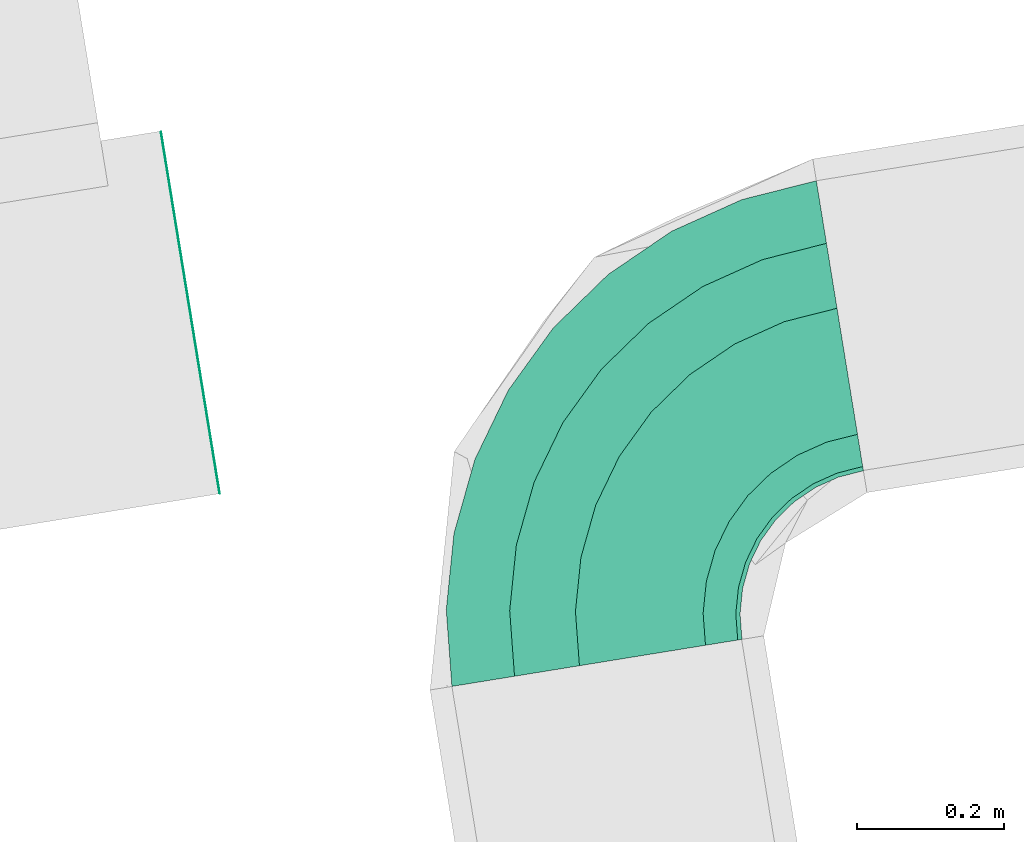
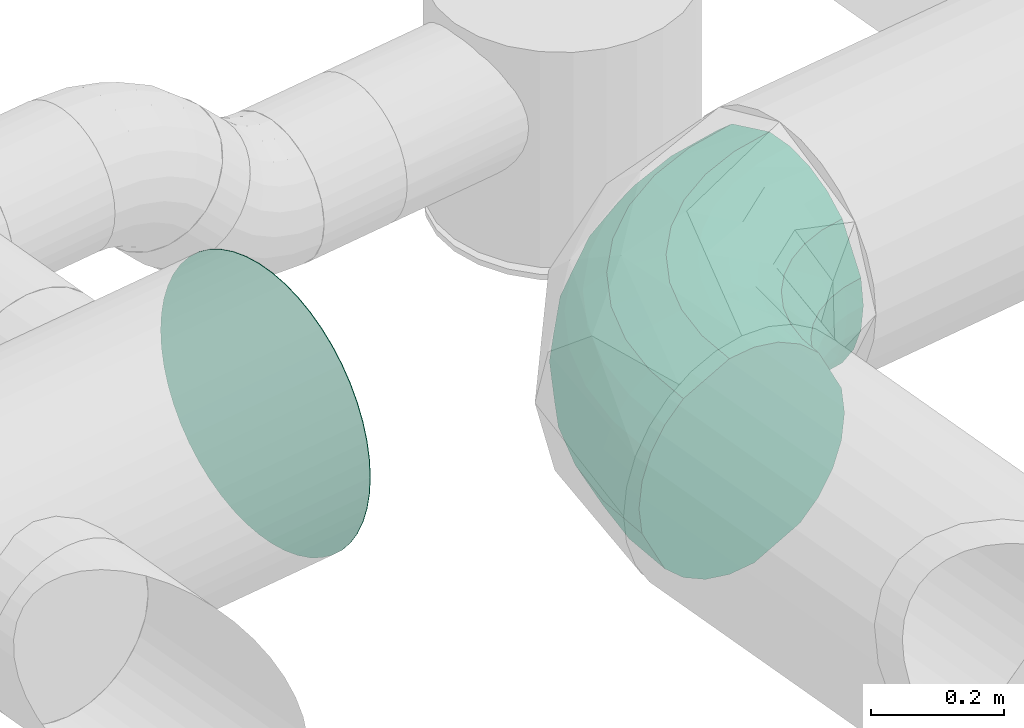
# One storey, part 21 of 39: 2 flow fittings.
"""IFC2X3 building model written with IfcOpenShell, lengths in millimetres."""

import ifcopenshell
import ifcopenshell.guid

model = None  # the IFC model being written
_history = None  # IfcOwnerHistory: only IFC2X3 demands one
_inside = {}  # id of a spatial element -> (the spatial element, [elements in it])
_under = {}  # id of a project, library or spatial element -> (it, [spatial elements below it])
_declared = {}  # id of a project -> (the project, [libraries it declares])
_typed = {}  # id of a type object -> (the type object, [elements of that type])
_made_of = {}  # id of a material, layer set ... -> (it, [elements and type objects made of it])


def new_model(schema):
    """Start an empty IFC model of exactly this schema.

    Asked for "IFC4X3", IfcOpenShell would pick the latest addendum, in which some entities
    have other attributes; the version numbers below select the first issue.
    IFC2X3 requires an IfcOwnerHistory on every rooted entity: one is made here for all.
    """
    global model, _history
    if schema == "IFC4X3":
        model = ifcopenshell.file(schema_version=(4, 3, 0, 0))
    else:
        model = ifcopenshell.file(schema=schema)
    _inside.clear()
    _under.clear()
    _declared.clear()
    _typed.clear()
    _made_of.clear()
    _history = None
    if model.schema == "IFC2X3":
        org = make("IfcOrganization", Name="unknown")
        user = make(
            "IfcPersonAndOrganization",
            ThePerson=make("IfcPerson", FamilyName="unknown"),
            TheOrganization=org,
        )
        app = make(
            "IfcApplication",
            ApplicationDeveloper=org,
            Version="unknown",
            ApplicationFullName="unknown",
            ApplicationIdentifier="unknown",
        )
        _history = make(
            "IfcOwnerHistory",
            OwningUser=user,
            OwningApplication=app,
            ChangeAction="ADDED",
            CreationDate=0,
        )
    return model


def make(cls, **values):
    """One entity of the class cls with the attributes given. An attribute that is None is left unset."""
    return model.create_entity(
        cls, **{name: value for name, value in values.items() if value is not None}
    )


def entity(cls, *values):
    """Any entity or typed value of the class cls, its attributes in the order of the schema. None: left unset."""
    e = model.create_entity(cls)
    for i, value in enumerate(values):
        if value is not None:
            e[i] = value
    return e


def rooted(cls, **values):
    """An entity with a GlobalId (a new one), such as an element, a storey or a relation."""
    return make(cls, GlobalId=ifcopenshell.guid.new(), OwnerHistory=_history, **values)


def si_unit(unit_type, name, prefix=None):
    """IfcSIUnit, for example si_unit("LENGTHUNIT", "METRE", prefix="MILLI")."""
    return make("IfcSIUnit", UnitType=unit_type, Prefix=prefix, Name=name)


def converted_unit(unit_type, name, factor, base, dimensions=None, offset=None):
    """IfcConversionBasedUnit, such as the inch: factor (a typed value) times the base unit."""
    return make(
        "IfcConversionBasedUnit"
        if offset is None
        else "IfcConversionBasedUnitWithOffset",
        ConversionOffset=offset,
        Dimensions=None
        if dimensions is None
        else entity("IfcDimensionalExponents", *dimensions),
        UnitType=unit_type,
        Name=name,
        ConversionFactor=make(
            "IfcMeasureWithUnit", ValueComponent=factor, UnitComponent=base
        ),
    )


def derived_unit(unit_type, elements):
    """IfcDerivedUnit: a product of units, each with its exponent."""
    return make(
        "IfcDerivedUnit",
        Elements=[
            make("IfcDerivedUnitElement", Unit=unit, Exponent=power)
            for unit, power in elements
        ],
        UnitType=unit_type,
    )


def assignment(units):
    """IfcUnitAssignment: the units of a project."""
    return None if units is None else make("IfcUnitAssignment", Units=units)


def point(xyz):
    """IfcCartesianPoint."""
    return None if xyz is None else make("IfcCartesianPoint", Coordinates=xyz)


def direction(xyz):
    """IfcDirection."""
    return None if xyz is None else make("IfcDirection", DirectionRatios=xyz)


def frame(location, z_axis=None, x_axis=None):
    """IfcAxis2Placement3D, a coordinate frame: its origin and axes. An axis left out is left unset."""
    return make(
        "IfcAxis2Placement3D",
        Location=point(location),
        Axis=direction(z_axis),
        RefDirection=direction(x_axis),
    )


def frame_2d(location, x_axis=None):
    """IfcAxis2Placement2D, a coordinate frame in the plane: its origin and x axis."""
    return make(
        "IfcAxis2Placement2D", Location=point(location), RefDirection=direction(x_axis)
    )


def origin():
    """The frame at (0, 0, 0) with its axes left unset."""
    return frame((0.0, 0.0, 0.0))


def origin_with_axes():
    """The frame at (0, 0, 0) with the z axis (0, 0, 1) and the x axis (1, 0, 0) written out."""
    return frame((0.0, 0.0, 0.0), z_axis=(0.0, 0.0, 1.0), x_axis=(1.0, 0.0, 0.0))


def place(relative_to, where):
    """IfcLocalPlacement: puts the frame where relative to a parent placement (None: the world)."""
    return make(
        "IfcLocalPlacement", PlacementRelTo=relative_to, RelativePlacement=where
    )


def context(
    kind, dimensions, precision=None, world=None, true_north=None, identifier=None
):
    """IfcGeometricRepresentationContext, for example the 3D "Model" context."""
    return make(
        "IfcGeometricRepresentationContext",
        ContextIdentifier=identifier,
        ContextType=kind,
        CoordinateSpaceDimension=dimensions,
        Precision=precision,
        WorldCoordinateSystem=world,
        TrueNorth=true_north,
    )


def subcontext(parent, identifier, kind, view, scale=None):
    """IfcGeometricRepresentationSubContext, for example "Body" below "Model"."""
    return make(
        "IfcGeometricRepresentationSubContext",
        ContextIdentifier=identifier,
        ContextType=kind,
        ParentContext=parent,
        TargetScale=scale,
        TargetView=view,
    )


def project(units=None, contexts=None):
    """IfcProject with its units and contexts."""
    return rooted(
        "IfcProject",
        Name="project",
        RepresentationContexts=contexts,
        UnitsInContext=assignment(units),
    )


def spatial(cls, under=None, at=None, **own):
    """A site, building, storey or space (cls), placed at a placement, below another one or the project."""
    s = rooted(cls, ObjectPlacement=at, **own)
    if under is not None:
        _under.setdefault(under.id(), (under, []))[1].append(s)
    return s


def profile(cls, at=None, kind="AREA", **sizes):
    """A parametric profile (cls). Its sizes go by their IFC names, for example OverallWidth=200.0."""
    return make(cls, ProfileType=kind, Position=at, **sizes)


def circle(**sizes):
    """IfcCircleProfileDef."""
    return profile("IfcCircleProfileDef", **sizes)


def extrude(swept, where, along, depth):
    """IfcExtrudedAreaSolid: the profile swept, set in the frame where, extruded along a direction by depth."""
    return make(
        "IfcExtrudedAreaSolid",
        SweptArea=swept,
        Position=where,
        ExtrudedDirection=direction(along),
        Depth=depth,
    )


def faces_of(points, faces, orient=None, outer=None):
    """IfcFace entities. A face is a list of loops; a loop is a list of indices into points, from 0.

    orient and outer hold one flag for each loop. By default every Orientation is true, the
    first loop of a face is its IfcFaceOuterBound and the others are IfcFaceBound.
    """
    made = []
    for i, loops in enumerate(faces):
        bounds = []
        for j, loop in enumerate(loops):
            is_outer = j == 0 if outer is None else outer[i][j]
            bounds.append(
                make(
                    "IfcFaceOuterBound" if is_outer else "IfcFaceBound",
                    Bound=make("IfcPolyLoop", Polygon=[points[k] for k in loop]),
                    Orientation=True if orient is None else orient[i][j],
                )
            )
        made.append(make("IfcFace", Bounds=bounds))
    return made


def faceted_brep(points, faces, orient=None, outer=None, voids=None):
    """IfcFacetedBrep: a solid bounded by flat faces; with voids (closed shells), ...WithVoids."""
    shared = [point(p) for p in points]
    hull = make("IfcClosedShell", CfsFaces=faces_of(shared, faces, orient, outer))
    if voids is None:
        return make("IfcFacetedBrep", Outer=hull)
    return make(
        "IfcFacetedBrepWithVoids",
        Outer=hull,
        Voids=[
            make(cls, CfsFaces=faces_of(shared, fs, o, b)) for cls, fs, o, b in voids
        ],
    )


def shape(context_of_items, identifier, shape_type, items):
    """IfcShapeRepresentation: the items that make up one representation, for example the "Body"."""
    return make(
        "IfcShapeRepresentation",
        ContextOfItems=context_of_items,
        RepresentationIdentifier=identifier,
        RepresentationType=shape_type,
        Items=items,
    )


def source(mapping_origin, context_of_items, identifier, shape_type, items):
    """IfcRepresentationMap: a shape defined once, which mapped items show again and again."""
    return make(
        "IfcRepresentationMap",
        MappingOrigin=mapping_origin,
        MappedRepresentation=shape(context_of_items, identifier, shape_type, items),
    )


def transform(
    local_origin,
    x_axis=None,
    y_axis=None,
    z_axis=None,
    scale=None,
    scale2=None,
    scale3=None,
    uniform=True,
):
    """IfcCartesianTransformationOperator3D, or its non-uniform kind. x_axis, y_axis, z_axis: its Axis1, 2, 3."""
    if uniform:
        return make(
            "IfcCartesianTransformationOperator3D",
            Axis1=direction(x_axis),
            Axis2=direction(y_axis),
            LocalOrigin=point(local_origin),
            Scale=scale,
            Axis3=direction(z_axis),
        )
    return make(
        "IfcCartesianTransformationOperator3DnonUniform",
        Axis1=direction(x_axis),
        Axis2=direction(y_axis),
        LocalOrigin=point(local_origin),
        Scale=scale,
        Axis3=direction(z_axis),
        Scale2=scale2,
        Scale3=scale3,
    )


def mapped(mapping_source, mapping_target):
    """IfcMappedItem: shows the shape of a source again, moved by a transform."""
    return make(
        "IfcMappedItem", MappingSource=mapping_source, MappingTarget=mapping_target
    )


def material(Name=None, Category=None):
    """IfcMaterial."""
    return make("IfcMaterial", Name=Name, Category=Category)


def made_of(thing, what):
    """Note that an element or type object is made of a material, layer set ...; save() writes the relation."""
    if what is not None:
        _made_of.setdefault(what.id(), (what, []))[1].append(thing)
    return thing


def type_object(cls, material=None, **own):
    """A type object (cls), such as IfcWallType, which elements share."""
    return made_of(rooted(cls, **own), material)


def element(
    cls,
    number,
    at=None,
    inside=None,
    cuts=None,
    type_object=None,
    material=None,
    context=None,
    identifier="Body",
    shape_type=None,
    held_by="IfcProductDefinitionShape",
    body=None,
    shapes=None,
    **own,
):
    """One element of the class cls, such as IfcWall. Its Tag is "e" and its number.

    at: its placement. inside: the storey or other place that contains it. cuts: it is an
    opening in that element (IfcRelVoidsElement). A single representation is given by context,
    identifier, shape_type and body (its items); several are given by shapes. held_by: the class
    of the entity that holds the representations. save() writes the other relations.
    """
    e = rooted(cls, Tag="e%d" % number, ObjectPlacement=at, **own)
    if body is not None:
        shapes = [shape(context, identifier, shape_type, body)]
    if shapes is not None:
        e.Representation = make(held_by, Representations=shapes)
    if inside is not None:
        _inside.setdefault(inside.id(), (inside, []))[1].append(e)
    if cuts is not None:
        rooted(
            "IfcRelVoidsElement", RelatingBuildingElement=cuts, RelatedOpeningElement=e
        )
    if type_object is not None:
        _typed.setdefault(type_object.id(), (type_object, []))[1].append(e)
    return made_of(e, material)


def aggregate(whole, parts):
    """IfcRelAggregates: a whole, such as a stair, and the parts it consists of."""
    return rooted("IfcRelAggregates", RelatingObject=whole, RelatedObjects=parts)


def save(model, path):
    """Write the relations noted so far, then the file.

    IfcRelAggregates (storeys below a building ...), IfcRelContainedInSpatialStructure (elements
    in a storey), IfcRelDefinesByType, IfcRelAssociatesMaterial and IfcRelDeclares: one each for
    every whole, place, type object, material and project.
    """
    for whole, parts in _under.values():
        aggregate(whole, parts)
    for where, things in _inside.values():
        rooted(
            "IfcRelContainedInSpatialStructure",
            RelatedElements=things,
            RelatingStructure=where,
        )
    for kind, things in _typed.values():
        rooted("IfcRelDefinesByType", RelatedObjects=things, RelatingType=kind)
    for what, things in _made_of.values():
        rooted("IfcRelAssociatesMaterial", RelatedObjects=things, RelatingMaterial=what)
    for by, libraries in _declared.values():
        rooted("IfcRelDeclares", RelatingContext=by, RelatedDefinitions=libraries)
    model.write(path)


model = new_model("IFC2X3")

# Units and contexts
model_context = context("Model", 3, precision=0.01, world=origin(), true_north=direction((6.12323399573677e-17, 1.0)))
plan_context = context("Plan", 3, precision=1e-05, world=origin_with_axes())
body_context = subcontext(model_context, "Body", "Model", "MODEL_VIEW")
ifc_project = project(units=[converted_unit("PLANEANGLEUNIT", "DEGREE", entity("IfcPositiveLengthMeasure", 0.0174532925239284), si_unit("PLANEANGLEUNIT", "RADIAN"), dimensions=[0, 0, 0, 0, 0, 0, 0]), si_unit("AREAUNIT", "SQUARE_METRE"), si_unit("LENGTHUNIT", "METRE", prefix="MILLI"), si_unit("MASSUNIT", "GRAM", prefix="KILO"), si_unit("POWERUNIT", "WATT"), si_unit("PRESSUREUNIT", "PASCAL", prefix="KILO"), si_unit("FORCEUNIT", "NEWTON", prefix="KILO"), si_unit("ELECTRICVOLTAGEUNIT", "VOLT"), si_unit("ELECTRICCURRENTUNIT", "AMPERE"), si_unit("THERMODYNAMICTEMPERATUREUNIT", "DEGREE_CELSIUS"), si_unit("TIMEUNIT", "SECOND"), si_unit("VOLUMEUNIT", "CUBIC_METRE"), derived_unit("LINEARVELOCITYUNIT", [(si_unit("LENGTHUNIT", "METRE"), 1), (si_unit("TIMEUNIT", "SECOND"), -1)]), derived_unit("VOLUMETRICFLOWRATEUNIT", [(si_unit("VOLUMEUNIT", "CUBIC_METRE"), 1), (si_unit("TIMEUNIT", "SECOND"), -1)]), derived_unit("THERMALTRANSMITTANCEUNIT", [(si_unit("POWERUNIT", "WATT"), 1), (si_unit("THERMODYNAMICTEMPERATUREUNIT", "KELVIN"), -1), (si_unit("AREAUNIT", "SQUARE_METRE"), -1)]), derived_unit("SOUNDPRESSUREUNIT", [(si_unit("PRESSUREUNIT", "PASCAL"), 1)])], contexts=[model_context, plan_context])

# Site, building, storey
site_placement = place(None, frame((-0.00071070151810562, 0.00438415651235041, 0.0), z_axis=(0.0, 0.0, 1.0), x_axis=(-0.160236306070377, 0.987078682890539, 0.0)))
site = spatial("IfcSite", under=ifc_project, at=site_placement, Name="Default", CompositionType="ELEMENT")
building_placement = place(site_placement, origin_with_axes())
building = spatial("IfcBuilding", under=site, at=building_placement, CompositionType="ELEMENT")
storey_placement = place(building_placement, frame((0.0, 0.0, 50999.9999999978), z_axis=(0.0, 0.0, 1.0), x_axis=(1.0, 0.0, 0.0)))
storey = spatial("IfcBuildingStorey", under=building, at=storey_placement, Name="Nivå D", CompositionType="ELEMENT", Elevation=50999.9999999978)

# Flow fittings
ifc_material_1 = material(Name="<Unnamed>")
duct_fitting_type_1 = type_object("IfcDuctFittingType", Name="magicirc_elbow_full_radius_1:magicirc_elbow_full_radius_001", PredefinedType="NOTDEFINED", material=ifc_material_1)
shared_shape_1 = source(origin(), body_context, "Body", "Brep", [
    faceted_brep([(-295.81109339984, -190.884651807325, 0.0), (-296.820273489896, -185.161307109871, 47.8631328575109), (-400.0, -194.188363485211, 47.8631328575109), (-400.0, -200.0, 0.0), (-299.78916388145, -168.323893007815, 92.9446344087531), (-400.0, -177.091205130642, 92.9446344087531), (-304.545223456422, -141.350938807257, 132.624531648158), (-400.0, -149.702149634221, 132.624531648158), (-310.812047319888, -105.810014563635, 164.596773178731), (-400.0, -113.612949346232, 164.596773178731), (-326.354533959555, -17.6641926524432, 198.541774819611), (-400.0, -24.1073360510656, 198.541774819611), (-334.726923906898, 29.817990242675, 198.541774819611), (-400.0, 24.1073360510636, 198.541774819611), (-342.856027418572, 75.9204271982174, 187.003248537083), (-400.0, 70.9209774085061, 187.003248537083), (-350.269410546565, 117.963812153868, 164.596773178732), (-400.0, 113.61294934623, 164.596773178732), (-356.536234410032, 153.50473639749, 132.62453164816), (-400.0, 149.702149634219, 132.62453164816), (-364.261184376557, 197.315104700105, 47.8631328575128), (-400.0, 194.18836348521, 47.8631328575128), (-365.270364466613, 203.038449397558, 0.0), (-400.0, 200.0, 0.0), (-364.261184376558, 197.315104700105, -47.8631328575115), (-400.0, 194.18836348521, -47.8631328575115), (-361.292293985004, 180.477690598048, -92.9446344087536), (-400.0, 177.091205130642, -92.9446344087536), (-356.536234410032, 153.504736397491, -132.624531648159), (-400.0, 149.70214963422, -132.624531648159), (-350.269410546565, 117.963812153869, -164.596773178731), (-400.0, 113.612949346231, -164.596773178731), (-334.726923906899, 29.8179902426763, -198.541774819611), (-400.0, 24.1073360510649, -198.541774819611), (-326.354533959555, -17.6641926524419, -198.541774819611), (-400.0, -24.1073360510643, -198.541774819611), (-318.225430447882, -63.7666296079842, -187.003248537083), (-400.0, -70.9209774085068, -187.003248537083), (-310.812047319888, -105.810014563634, -164.596773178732), (-400.0, -113.612949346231, -164.596773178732), (-304.545223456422, -141.350938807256, -132.624531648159), (-400.0, -149.70214963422, -132.624531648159), (-296.820273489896, -185.161307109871, -47.8631328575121), (-400.0, -194.18836348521, -47.8631328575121), (-194.787914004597, -163.815572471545, 0.0), (-196.775610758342, -158.354420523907, 47.8631328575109), (-202.623183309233, -142.288346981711, 92.9446344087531), (-211.990791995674, -116.551053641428, 132.624531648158), (-224.334025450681, -82.6382984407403, 164.596773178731), (-254.946748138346, 1.46946589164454, 198.541774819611), (-271.437137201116, 46.7764374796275, 198.541774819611), (-287.448345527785, 90.7668708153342, 187.003248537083), (-302.049859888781, 130.884201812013, 164.596773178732), (-314.393093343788, 164.796957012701, 132.62453164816), (-329.608274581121, 206.60032389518, 47.8631328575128), (-331.595971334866, 212.061475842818, 0.0), (-329.608274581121, 206.600323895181, -47.8631328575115), (-323.760702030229, 190.534250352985, -92.9446344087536), (-314.393093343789, 164.796957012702, -132.624531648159), (-302.049859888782, 130.884201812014, -164.596773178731), (-271.437137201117, 46.7764374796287, -198.541774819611), (-254.946748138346, 1.46946589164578, -198.541774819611), (-238.935539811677, -42.5209674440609, -187.003248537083), (-224.334025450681, -82.6382984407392, -164.596773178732), (-211.990791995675, -116.551053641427, -132.624531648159), (-196.775610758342, -158.354420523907, -47.8631328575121), (-100.0, -119.615242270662, 0.0), (-102.905818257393, -114.582217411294, 47.8631328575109), (-111.454397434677, -99.7756439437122, 92.9446344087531), (-125.148925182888, -76.0560260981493, 132.624531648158), (-143.193525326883, -44.8018618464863, 164.596773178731), (-187.946331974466, 32.7122730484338, 198.541774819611), (-212.053668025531, 74.4674039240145, 198.541774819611), (-235.460488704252, 115.009206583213, 187.003248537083), (-256.806474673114, 151.981538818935, 164.596773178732), (-274.851074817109, 183.235703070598, 132.62453164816), (-297.094181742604, 221.761894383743, 47.8631328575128), (-300.0, 226.794919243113, 0.0), (-297.094181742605, 221.761894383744, -47.8631328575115), (-288.54560256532, 206.955320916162, -92.9446344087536), (-274.851074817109, 183.235703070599, -132.624531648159), (-256.806474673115, 151.981538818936, -164.596773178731), (-212.053668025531, 74.4674039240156, -198.541774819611), (-187.946331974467, 32.712273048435, -198.541774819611), (-164.539511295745, -7.829529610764, -187.003248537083), (-143.193525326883, -44.8018618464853, -164.596773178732), (-125.148925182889, -76.0560260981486, -132.624531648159), (-102.905818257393, -114.582217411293, -47.8631328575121), (-14.327434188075, -59.6266658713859, 0.0), (-18.0630821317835, -55.1746940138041, 47.8631328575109), (-29.0529236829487, -42.0775108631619, 92.9446344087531), (-46.6582691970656, -21.0962770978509, 132.624531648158), (-69.8559599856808, 6.54965423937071, 164.596773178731), (-127.389059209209, 75.1149319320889, 198.541774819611), (-158.380853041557, 112.049513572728, 198.541774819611), (-188.47208167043, 147.910843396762, 187.003248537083), (-215.913952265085, 180.614791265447, 164.596773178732), (-239.1116430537, 208.260722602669, 132.62453164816), (-267.706830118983, 242.339139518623, 47.8631328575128), (-271.442478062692, 246.791111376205, 0.0), (-267.706830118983, 242.339139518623, -47.8631328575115), (-256.716988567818, 229.24195636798, -92.9446344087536), (-239.111643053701, 208.260722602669, -132.624531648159), (-215.913952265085, 180.614791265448, -164.596773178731), (-158.380853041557, 112.049513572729, -198.541774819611), (-127.389059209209, 75.1149319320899, -198.541774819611), (-97.297830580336, 39.2536021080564, -187.003248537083), (-69.8559599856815, 6.54965423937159, -164.596773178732), (-46.6582691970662, -21.0962770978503, -132.624531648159), (-18.0630821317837, -55.1746940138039, -47.8631328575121), (59.626665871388, 14.3274341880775, 0.0), (55.1746940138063, 18.0630821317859, 47.8631328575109), (42.077510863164, 29.0529236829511, 92.9446344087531), (21.0962770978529, 46.6582691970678, 132.624531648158), (-6.54965423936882, 69.8559599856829, 164.596773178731), (-75.1149319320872, 127.38905920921, 198.541774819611), (-112.049513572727, 158.380853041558, 198.541774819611), (-147.910843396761, 188.472081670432, 187.003248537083), (-180.614791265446, 215.913952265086, 164.596773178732), (-208.260722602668, 239.111643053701, 132.62453164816), (-242.339139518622, 267.706830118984, 47.8631328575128), (-246.791111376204, 271.442478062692, 0.0), (-242.339139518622, 267.706830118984, -47.8631328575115), (-229.24195636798, 256.716988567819, -92.9446344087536), (-208.260722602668, 239.111643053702, -132.624531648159), (-180.614791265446, 215.913952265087, -164.596773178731), (-112.049513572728, 158.380853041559, -198.541774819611), (-75.1149319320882, 127.389059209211, -198.541774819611), (-39.2536021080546, 97.297830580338, -187.003248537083), (-6.54965423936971, 69.8559599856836, -164.596773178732), (21.0962770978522, 46.6582691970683, -132.624531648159), (55.174694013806, 18.0630821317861, -47.8631328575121), (119.615242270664, 100.0, 0.0), (114.582217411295, 102.905818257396, 47.8631328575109), (99.775643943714, 111.45439743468, 92.9446344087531), (76.056026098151, 125.148925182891, 132.624531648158), (44.8018618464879, 143.193525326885, 164.596773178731), (-32.7122730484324, 187.946331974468, 198.541774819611), (-74.4674039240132, 212.053668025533, 198.541774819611), (-115.009206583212, 235.460488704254, 187.003248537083), (-151.981538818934, 256.806474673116, 164.596773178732), (-183.235703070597, 274.85107481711, 132.62453164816), (-221.761894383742, 297.094181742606, 47.8631328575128), (-226.794919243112, 300.0, 0.0), (-221.761894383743, 297.094181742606, -47.8631328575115), (-206.955320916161, 288.545602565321, -92.9446344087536), (-183.235703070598, 274.851074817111, -132.624531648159), (-151.981538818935, 256.806474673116, -164.596773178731), (-74.4674039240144, 212.053668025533, -198.541774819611), (-32.7122730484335, 187.946331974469, -198.541774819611), (7.82952961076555, 164.539511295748, -187.003248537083), (44.8018618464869, 143.193525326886, -164.596773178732), (76.0560260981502, 125.148925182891, -132.624531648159), (114.582217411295, 102.905818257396, -47.8631328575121), (163.815572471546, 194.7879140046, 0.0), (158.354420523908, 196.775610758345, 47.8631328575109), (142.288346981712, 202.623183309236, 92.9446344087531), (116.551053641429, 211.990791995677, 132.624531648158), (82.6382984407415, 224.334025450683, 164.596773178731), (-1.46946589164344, 254.946748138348, 198.541774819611), (-46.7764374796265, 271.437137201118, 198.541774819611), (-90.7668708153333, 287.448345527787, 187.003248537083), (-130.884201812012, 302.049859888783, 164.596773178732), (-164.7969570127, 314.39309334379, 132.62453164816), (-206.60032389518, 329.608274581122, 47.8631328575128), (-212.061475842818, 331.595971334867, 0.0), (-206.60032389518, 329.608274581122, -47.8631328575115), (-190.534250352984, 323.760702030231, -92.9446344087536), (-164.796957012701, 314.39309334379, -132.624531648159), (-130.884201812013, 302.049859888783, -164.596773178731), (-46.7764374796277, 271.437137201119, -198.541774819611), (-1.46946589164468, 254.946748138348, -198.541774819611), (42.5209674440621, 238.93553981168, -187.003248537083), (82.6382984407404, 224.334025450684, -164.596773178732), (116.551053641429, 211.990791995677, -132.624531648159), (158.354420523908, 196.775610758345, -47.8631328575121), (190.884651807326, 295.811093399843, 0.0), (185.161307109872, 296.820273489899, 47.8631328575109), (168.323893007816, 299.789163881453, 92.9446344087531), (141.350938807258, 304.545223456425, 132.624531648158), (105.810014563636, 310.812047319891, 164.596773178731), (17.664192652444, 326.354533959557, 198.541774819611), (-29.8179902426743, 334.7269239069, 198.541774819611), (-75.9204271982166, 342.856027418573, 187.003248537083), (-117.963812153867, 350.269410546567, 164.596773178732), (-153.504736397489, 356.536234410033, 132.62453164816), (-197.315104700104, 364.261184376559, 47.8631328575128), (-203.038449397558, 365.270364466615, 0.0), (-197.315104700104, 364.261184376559, -47.8631328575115), (-180.477690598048, 361.292293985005, -92.9446344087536), (-153.50473639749, 356.536234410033, -132.624531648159), (-117.963812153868, 350.269410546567, -164.596773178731), (-29.8179902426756, 334.726923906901, -198.541774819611), (17.6641926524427, 326.354533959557, -198.541774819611), (63.766629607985, 318.225430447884, -187.003248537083), (105.810014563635, 310.812047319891, -164.596773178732), (141.350938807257, 304.545223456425, -132.624531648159), (185.161307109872, 296.820273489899, -47.8631328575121), (200.0, 400.0, 0.0), (194.188363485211, 400.0, 47.8631328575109), (177.091205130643, 400.0, 92.9446344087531), (149.702149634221, 400.0, 132.624531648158), (113.612949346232, 400.0, 164.596773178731), (24.1073360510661, 400.0, 198.541774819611), (-24.107336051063, 400.0, 198.541774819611), (-70.9209774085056, 400.0, 187.003248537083), (-113.61294934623, 400.0, 164.596773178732), (-149.702149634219, 400.0, 132.62453164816), (-194.18836348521, 400.0, 47.8631328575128), (-200.0, 400.0, 0.0), (-194.18836348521, 400.0, -47.8631328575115), (-177.091205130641, 400.0, -92.9446344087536), (-149.70214963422, 400.0, -132.624531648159), (-113.612949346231, 400.0, -164.596773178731), (-24.1073360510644, 400.0, -198.541774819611), (24.1073360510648, 400.0, -198.541774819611), (70.9209774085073, 400.0, -187.003248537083), (113.612949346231, 400.0, -164.596773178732), (149.70214963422, 400.0, -132.624531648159), (194.188363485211, 400.0, -47.8631328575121)], [[[0, 1, 2, 3]], [[1, 4, 5, 2]], [[4, 6, 7, 5]], [[6, 8, 9, 7]], [[8, 10, 11, 9]], [[10, 12, 13, 11]], [[12, 14, 15, 13]], [[14, 16, 17, 15]], [[16, 18, 19, 17]], [[18, 20, 21, 19]], [[20, 22, 23, 21]], [[22, 24, 25, 23]], [[24, 26, 27, 25]], [[26, 28, 29, 27]], [[28, 30, 31, 29]], [[30, 32, 33, 31]], [[32, 34, 35, 33]], [[34, 36, 37, 35]], [[36, 38, 39, 37]], [[38, 40, 41, 39]], [[40, 42, 43, 41]], [[42, 0, 3, 43]], [[44, 45, 1, 0]], [[45, 46, 4, 1]], [[46, 47, 6, 4]], [[47, 48, 8, 6]], [[48, 49, 10, 8]], [[49, 50, 12, 10]], [[50, 51, 14, 12]], [[51, 52, 16, 14]], [[52, 53, 18, 16]], [[53, 54, 20, 18]], [[54, 55, 22, 20]], [[55, 56, 24, 22]], [[56, 57, 26, 24]], [[57, 58, 28, 26]], [[58, 59, 30, 28]], [[59, 60, 32, 30]], [[60, 61, 34, 32]], [[61, 62, 36, 34]], [[62, 63, 38, 36]], [[63, 64, 40, 38]], [[64, 65, 42, 40]], [[65, 44, 0, 42]], [[66, 67, 45, 44]], [[67, 68, 46, 45]], [[68, 69, 47, 46]], [[69, 70, 48, 47]], [[70, 71, 49, 48]], [[71, 72, 50, 49]], [[72, 73, 51, 50]], [[73, 74, 52, 51]], [[74, 75, 53, 52]], [[75, 76, 54, 53]], [[76, 77, 55, 54]], [[77, 78, 56, 55]], [[78, 79, 57, 56]], [[79, 80, 58, 57]], [[80, 81, 59, 58]], [[81, 82, 60, 59]], [[82, 83, 61, 60]], [[83, 84, 62, 61]], [[84, 85, 63, 62]], [[85, 86, 64, 63]], [[86, 87, 65, 64]], [[87, 66, 44, 65]], [[88, 89, 67, 66]], [[89, 90, 68, 67]], [[90, 91, 69, 68]], [[91, 92, 70, 69]], [[92, 93, 71, 70]], [[93, 94, 72, 71]], [[94, 95, 73, 72]], [[95, 96, 74, 73]], [[96, 97, 75, 74]], [[97, 98, 76, 75]], [[98, 99, 77, 76]], [[99, 100, 78, 77]], [[100, 101, 79, 78]], [[101, 102, 80, 79]], [[102, 103, 81, 80]], [[103, 104, 82, 81]], [[104, 105, 83, 82]], [[105, 106, 84, 83]], [[106, 107, 85, 84]], [[107, 108, 86, 85]], [[108, 109, 87, 86]], [[109, 88, 66, 87]], [[110, 111, 89, 88]], [[111, 112, 90, 89]], [[112, 113, 91, 90]], [[113, 114, 92, 91]], [[114, 115, 93, 92]], [[115, 116, 94, 93]], [[116, 117, 95, 94]], [[117, 118, 96, 95]], [[118, 119, 97, 96]], [[119, 120, 98, 97]], [[120, 121, 99, 98]], [[121, 122, 100, 99]], [[122, 123, 101, 100]], [[123, 124, 102, 101]], [[124, 125, 103, 102]], [[125, 126, 104, 103]], [[126, 127, 105, 104]], [[127, 128, 106, 105]], [[128, 129, 107, 106]], [[129, 130, 108, 107]], [[130, 131, 109, 108]], [[131, 110, 88, 109]], [[132, 133, 111, 110]], [[133, 134, 112, 111]], [[134, 135, 113, 112]], [[135, 136, 114, 113]], [[136, 137, 115, 114]], [[137, 138, 116, 115]], [[138, 139, 117, 116]], [[139, 140, 118, 117]], [[140, 141, 119, 118]], [[141, 142, 120, 119]], [[142, 143, 121, 120]], [[143, 144, 122, 121]], [[144, 145, 123, 122]], [[145, 146, 124, 123]], [[146, 147, 125, 124]], [[147, 148, 126, 125]], [[148, 149, 127, 126]], [[149, 150, 128, 127]], [[150, 151, 129, 128]], [[151, 152, 130, 129]], [[152, 153, 131, 130]], [[153, 132, 110, 131]], [[154, 155, 133, 132]], [[155, 156, 134, 133]], [[156, 157, 135, 134]], [[157, 158, 136, 135]], [[158, 159, 137, 136]], [[159, 160, 138, 137]], [[160, 161, 139, 138]], [[161, 162, 140, 139]], [[162, 163, 141, 140]], [[163, 164, 142, 141]], [[164, 165, 143, 142]], [[165, 166, 144, 143]], [[166, 167, 145, 144]], [[167, 168, 146, 145]], [[168, 169, 147, 146]], [[169, 170, 148, 147]], [[170, 171, 149, 148]], [[171, 172, 150, 149]], [[172, 173, 151, 150]], [[173, 174, 152, 151]], [[174, 175, 153, 152]], [[175, 154, 132, 153]], [[176, 177, 155, 154]], [[177, 178, 156, 155]], [[178, 179, 157, 156]], [[179, 180, 158, 157]], [[180, 181, 159, 158]], [[181, 182, 160, 159]], [[182, 183, 161, 160]], [[183, 184, 162, 161]], [[184, 185, 163, 162]], [[185, 186, 164, 163]], [[186, 187, 165, 164]], [[187, 188, 166, 165]], [[188, 189, 167, 166]], [[189, 190, 168, 167]], [[190, 191, 169, 168]], [[191, 192, 170, 169]], [[192, 193, 171, 170]], [[193, 194, 172, 171]], [[194, 195, 173, 172]], [[195, 196, 174, 173]], [[196, 197, 175, 174]], [[197, 176, 154, 175]], [[198, 199, 177, 176]], [[199, 200, 178, 177]], [[200, 201, 179, 178]], [[201, 202, 180, 179]], [[202, 203, 181, 180]], [[203, 204, 182, 181]], [[204, 205, 183, 182]], [[205, 206, 184, 183]], [[206, 207, 185, 184]], [[207, 208, 186, 185]], [[208, 209, 187, 186]], [[209, 210, 188, 187]], [[210, 211, 189, 188]], [[211, 212, 190, 189]], [[212, 213, 191, 190]], [[213, 214, 192, 191]], [[214, 215, 193, 192]], [[215, 216, 194, 193]], [[216, 217, 195, 194]], [[217, 218, 196, 195]], [[218, 219, 197, 196]], [[219, 198, 176, 197]], [[3, 2, 5, 7, 9, 11, 13, 15, 17, 19, 21, 23, 25, 27, 29, 31, 33, 35, 37, 39, 41, 43]], [[219, 218, 217, 216, 215, 214, 213, 212, 211, 210, 209, 208, 207, 206, 205, 204, 203, 202, 201, 200, 199, 198]]]),
])
flow_fitting_1_placement = place(storey_placement, frame((772854.832653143, -600722.905078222, 3300.0), z_axis=(0.0, 0.0, 1.0), x_axis=(0.0, 1.0, 0.0)))
element("IfcFlowFitting", 1, at=flow_fitting_1_placement, inside=storey, type_object=duct_fitting_type_1, material=ifc_material_1, Name="magicirc_elbow_full_radius_1:magicirc_elbow_full_radius_001", ObjectType="magicirc_elbow_full_radius_1:magicirc_elbow_full_radius_001", context=body_context, shape_type="MappedRepresentation", body=[
    mapped(shared_shape_1, transform((0.0, 0.0, 0.0), scale=1.0)),
])
ifc_material_2 = material(Name="DF_Material1")
duct_fitting_type_2 = type_object("IfcDuctFittingType", Name="Endcap 5521:Lindab EPF", PredefinedType="NOTDEFINED", material=ifc_material_2)
shared_shape_2 = source(origin(), body_context, "Body", "SweptSolid", [
    extrude(circle(Radius=250.000000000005, at=frame_2d((-4.10740923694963e-13, -1.03796335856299e-12), x_axis=(1.0, 0.0))), frame((0.0, 0.0, 0.0), z_axis=(1.0, 0.0, 0.0), x_axis=(0.0, 1.0, 0.0)), (0.0, 0.0, 1.0), 0.800000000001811),
])
flow_fitting_2_placement = place(storey_placement, frame((773014.47928963, -600252.580498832, 3310.0), z_axis=(0.0, 0.0, 1.0), x_axis=(0.0, -1.0, 0.0)))
element("IfcFlowFitting", 2, at=flow_fitting_2_placement, inside=storey, type_object=duct_fitting_type_2, material=ifc_material_2, Name="Endcap 5521:Lindab EPF", ObjectType="Endcap 5521:Lindab EPF", context=body_context, shape_type="MappedRepresentation", body=[
    mapped(shared_shape_2, transform((0.0, 0.0, 0.0), scale=1.0)),
])

save(model, "model.ifc")
